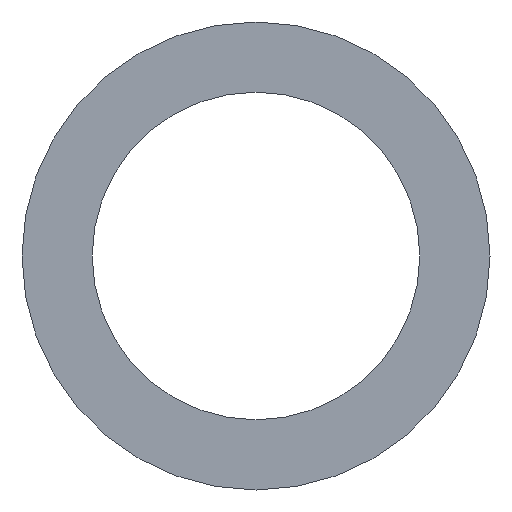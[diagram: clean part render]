
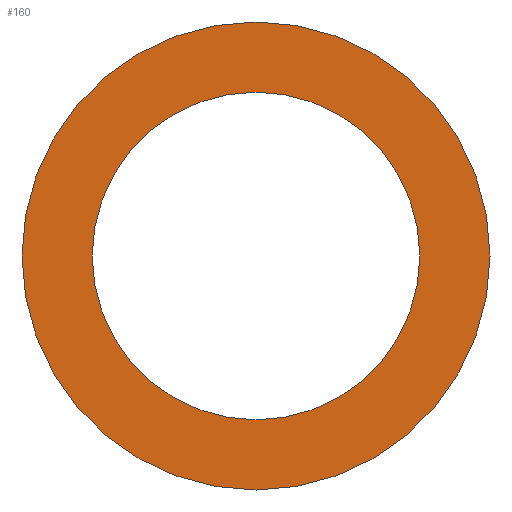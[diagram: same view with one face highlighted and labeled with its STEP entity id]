
A CAD part, front view. The second image highlights one B-rep face of the part: STEP entity #160.
In plain terms, the highlighted planar face has unit normal (0, -1, 0).
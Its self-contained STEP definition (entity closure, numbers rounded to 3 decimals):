
#121 = VERTEX_POINT('',#122);
#122 = CARTESIAN_POINT('',(171.7,154.,75.));
#128 = EDGE_CURVE('',#121,#121,#129,.T.);
#129 = CIRCLE('',#130,20.);
#130 = AXIS2_PLACEMENT_3D('',#131,#132,#133);
#131 = CARTESIAN_POINT('',(171.7,154.,55.));
#132 = DIRECTION('',(0.,1.,0.));
#133 = DIRECTION('',(0.,0.,1.));
#160 = ADVANCED_FACE('',(#161,#164),#175,.F.);
#161 = FACE_BOUND('',#162,.F.);
#162 = EDGE_LOOP('',(#163));
#163 = ORIENTED_EDGE('',*,*,#128,.T.);
#164 = FACE_BOUND('',#165,.F.);
#165 = EDGE_LOOP('',(#166));
#166 = ORIENTED_EDGE('',*,*,#167,.F.);
#167 = EDGE_CURVE('',#168,#168,#170,.T.);
#168 = VERTEX_POINT('',#169);
#169 = CARTESIAN_POINT('',(171.7,154.,69.));
#170 = CIRCLE('',#171,14.);
#171 = AXIS2_PLACEMENT_3D('',#172,#173,#174);
#172 = CARTESIAN_POINT('',(171.7,154.,55.));
#173 = DIRECTION('',(0.,1.,0.));
#174 = DIRECTION('',(0.,0.,1.));
#175 = PLANE('',#176);
#176 = AXIS2_PLACEMENT_3D('',#177,#178,#179);
#177 = CARTESIAN_POINT('',(171.7,154.,55.));
#178 = DIRECTION('',(0.,1.,0.));
#179 = DIRECTION('',(0.,0.,1.));
